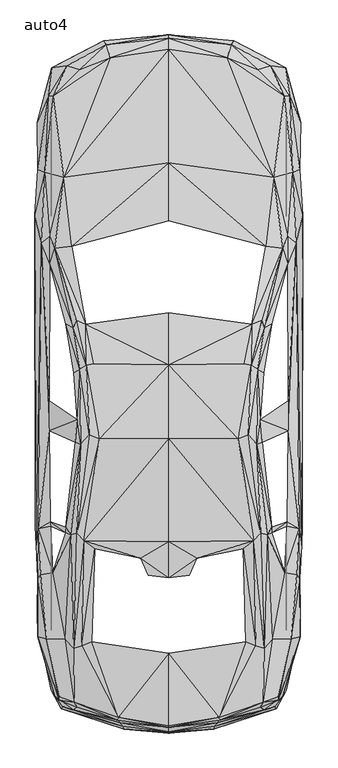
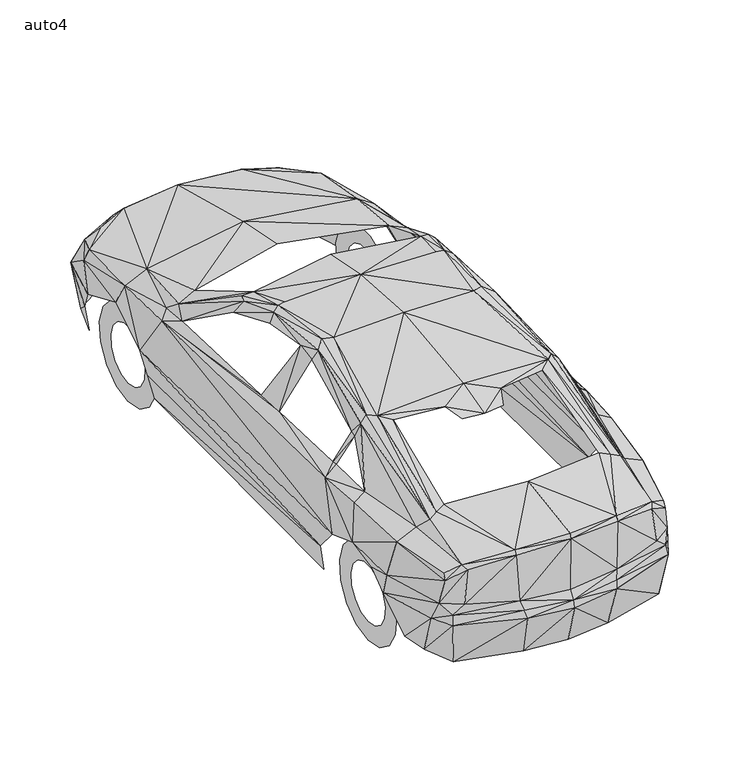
"""IFC4 building model written with IfcOpenShell, lengths in millimetres: proxy geometry, M_RPC maschio : auto4."""

from ifc_helpers import new_model, si_unit, origin, place, context, project, spatial, triangles, source, transform, mapped, element, save


def auto4_f5e02f9d(model_context):
    return source(origin(), model_context, "Body", "Tessellation", [
        triangles([(691.5274847, 2661.7003235, 932.4895935), (0.0, 2758.9345047, 959.4930325), (750.7608604, -757.7185753, 704.4847607), (721.7975121, -786.2464125, 870.6430052), (603.113005, -833.3935347, 933.9051321), (629.4631771, -848.6373716, 710.1467697), (807.163159, -379.3438148, 921.7100189), (319.1414211, -935.7452814, 678.7880007), (0.0, -965.9063765, 1015.5687521), (865.0899284, 18.9568473, 696.8628422), (843.3129147, 40.5160408, 950.2378561), (0.0, -960.8976706, 663.9796022), (859.2101274, 343.2158601, 945.8824533), (817.2894304, 2695.2369392, 837.8686975), (761.1049238, 3194.6916275, 763.7181364), (841.2441456, 2229.2098618, 884.1447247), (882.6203264, 2411.3741787, 584.7114756), (875.2161999, 236.5087106, 624.2366793), (413.4356655, 3530.4923515, 273.5186608), (752.8296295, 3306.9516357, 288.3270048), (428.1351316, 3562.722361, 565.547747), (771.6667065, 3384.2599983, 565.9832946), (672.6904078, 3397.3260612, 685.1033129), (0.0, 3596.2586861, 269.8165794), (411.1490682, 3535.1743332, 674.214806), (386.8677741, 3451.2242249, 764.2625799), (0.0, 3505.7755463, 761.758227), (0.0, 3578.0749123, 656.2488241), (0.0, 3600.2875099, 531.0312856), (585.3647787, 3369.7783241, 754.3540277), (862.041132, -322.3970727, 553.4615298), (865.41658, -366.7131904, 701.9804077), (767.8557472, -405.1495434, 267.747774), (881.3137201, 360.6373984, 470.7090955), (870.4252859, 2341.4700153, 446.7544167), (819.6849237, 3089.073365, 292.4646338), (844.1840097, 3101.5949844, 457.6428872), (838.8486523, 391.5606926, 275.1519369), (829.0490324, 2329.8194183, 281.1406157), (864.8721365, 2710.2630569, 730.1815933), (868.6830957, 3025.5935188, 596.2532856), (796.1657925, 3195.4537903, 703.7225979), (866.5053944, -197.0706382, 656.2488241), (0.0, -1002.7094353, 561.6278918), (0.0, -930.192132, 298.5621722), (708.2957926, -843.5198061, 588.6313308), (673.6703625, -791.7995619, 295.4045161), (739.8723536, -575.6631543, 273.409783), (775.4776657, -720.8066568, 587.5424801), (274.9341813, -904.6042316, 298.8888419), (698.9316839, -830.3447382, 648.3002541), (302.4820274, -958.066666, 623.3655842), (292.7912853, -977.1214622, 575.5651588), (0.0, -992.4742315, 608.7750504), (638.3917019, 2207.7595722, 1039.196743), (548.2350683, 1692.7343227, 1309.1221275), (495.8614846, 1431.9551823, 1380.4417568), (0.0, 1426.4020329, 1400.8031593), (0.0, 939.4691093, 1433.4686073), (459.493937, 936.0936613, 1422.2535942), (0.0, 257.7412627, 1354.7449242), (0.0, 2374.7887665, 1036.0390869), (0.0, 1769.1715176, 1331.7703091), (508.2743534, -400.0319415, 1090.699268), (572.4075027, -425.6198782, 1075.6731503), (764.6980911, 53.9088733, 991.6140369), (682.7078196, -385.7680229, 985.9520279), (627.8298466, -442.4970094, 1053.8962091), (678.3524168, 355.5198329, 1198.8218834), (611.3882629, 1717.6689926, 1288.3251411), (750.8697201, 2194.3666397, 993.0295755), (785.9306614, 2092.014893, 945.2291502), (628.592082, 1669.1062592, 1286.1475124), (560.4301815, 266.343154, 1319.2485443), (603.9841001, 1061.7467474, 1339.6099468), (787.1283354, 990.2094715, 987.0409149), (679.9856747, 1696.545282, 1211.1258562), (647.7558105, 305.3239142, 1274.1701912), (781.2486071, 388.94748, 1001.6314487), (777.3287155, 359.9840953, 1002.7203358), (788.543874, 1189.7953268, 980.6166704), (785.7128695, 2273.852631, 928.1341908), (679.2235119, 319.2611813, 1190.1110779), (581.0094123, 902.339399, 1393.5079651), (523.4093307, 964.4037792, 1415.2848335), (586.0181182, 1397.4386845, 1359.3180462), (625.9788694, 1373.9196259, 1311.1910419), (543.9885615, 1420.8488834, 1379.1351505), (183.3620454, 150.5985929, 1319.1395393), (0.0, 19.93681, 1288.9784443), (605.8351499, 313.2725206, 1312.9332321), (616.83248, 913.1189735, 1338.847784), (489.4372765, 210.9207921, 1299.7581642), (134.9082897, 38.5561131, 1287.2363995), (0.0, -953.9290552, 1047.0364534), (332.9697922, -897.8533356, 1016.7664261), (721.2530685, -763.8160955, 907.3372044), (622.3856295, -801.1635979, 954.2665346), (334.8208056, -919.739209, 992.702924), (0.0, -477.2312628, 1117.8115665), (-691.5274847, 2661.7003235, 932.4895935), (-750.7608604, -757.7185753, 704.4847607), (-721.7975121, -786.2464125, 870.6430052), (-603.113005, -833.3935347, 933.9051321), (-629.5720367, -848.6373716, 710.1467697), (-807.163159, -379.3438148, 921.7100189), (-319.1414211, -935.7452814, 678.7880007), (-865.0899284, 18.9568473, 696.8628422), (-843.3129147, 40.5160408, 950.2378561), (-859.2101274, 343.2158601, 945.8824533), (-817.2894304, 2695.2369392, 837.8686975), (-761.1049238, 3194.6916275, 763.7181364), (-841.2441456, 2229.2098618, 884.1447247), (-882.6203264, 2411.3741787, 584.7114756), (-875.2161999, 236.5087106, 624.2366793), (-413.4356655, 3530.4923515, 273.5186608), (-752.8296295, 3306.9516357, 288.3270048), (-428.1351316, 3562.722361, 565.547747), (-771.6667065, 3384.2599983, 565.9832946), (-672.6904078, 3397.3260612, 685.1033129), (-411.1490682, 3535.1743332, 674.214806), (-386.8677741, 3451.2242249, 764.2625799), (-585.3647787, 3369.7783241, 754.3540277), (-862.041132, -322.3970727, 553.4615298), (-865.41658, -366.7131904, 701.9804077), (-767.8557472, -405.1495434, 267.747774), (-881.3137201, 360.6373984, 470.7090955), (-870.4252859, 2341.4700153, 446.7544167), (-819.6849237, 3089.073365, 292.4646338), (-844.1840097, 3101.5949844, 457.6428872), (-838.8486523, 391.5606926, 275.1519369), (-829.0490324, 2329.8194183, 281.1406157), (-864.8721365, 2710.2630569, 730.1815933), (-868.6830957, 3025.5935188, 596.2532856), (-796.1657925, 3195.4537903, 703.7225979), (-866.5053944, -197.0706382, 656.2488241), (-708.2957926, -843.5198061, 588.6313308), (-673.6703625, -791.7995619, 295.4045161), (-739.8723536, -575.6631543, 273.409783), (-775.4776657, -720.8066568, 587.5424801), (-274.9341813, -904.6042316, 298.8888419), (-698.9316839, -830.3447382, 648.3002541), (-302.4820274, -958.066666, 623.3655842), (-292.7912853, -977.1214622, 575.5651588), (-638.3917019, 2207.7595722, 1039.196743), (-548.2350683, 1692.7343227, 1309.1221275), (-495.8614846, 1431.9551823, 1380.4417568), (-459.493937, 936.0936613, 1422.2535942), (-508.2743534, -400.0319415, 1090.699268), (-572.4075027, -425.6198782, 1075.6731503), (-764.6980911, 53.9088733, 991.6140369), (-682.7078196, -385.7680229, 985.9520279), (-627.8298466, -442.4970094, 1053.8962091), (-678.3524168, 355.5198329, 1198.8218834), (-611.4971226, 1717.6689926, 1288.3251411), (-750.8697201, 2194.3666397, 993.0295755), (-785.9306614, 2092.014893, 945.2291502), (-628.592082, 1669.1062592, 1286.1475124), (-560.4301815, 266.343154, 1319.2485443), (-603.9841001, 1061.7467474, 1339.6099468), (-787.1283354, 990.2094715, 987.0409149), (-680.094607, 1696.545282, 1211.1258562), (-647.7558105, 305.3239142, 1274.1701912), (-781.2486071, 388.94748, 1001.6314487), (-777.3287155, 359.9840953, 1002.7203358), (-788.543874, 1189.7953268, 980.6166704), (-785.7128695, 2273.852631, 928.1341908), (-679.2235119, 319.2611813, 1190.1110779), (-581.0094123, 902.339399, 1393.5079651), (-523.4093307, 964.4037792, 1415.2848335), (-586.0181182, 1397.4386845, 1359.3180462), (-625.9788694, 1373.9196259, 1311.1910419), (-543.9885615, 1420.8488834, 1379.1351505), (-183.3620454, 150.5985929, 1319.1395393), (-605.8351499, 313.2725206, 1312.9332321), (-616.83248, 913.1189735, 1338.847784), (-489.4372765, 210.9207921, 1299.7581642), (-134.9082897, 38.5561131, 1287.2363995), (-332.9697922, -897.8533356, 1016.7664261), (-721.2530685, -763.8160955, 907.3372044), (-622.3856295, -801.1635979, 954.2665346), (-334.8208056, -919.739209, 992.702924), (-775.4668379, 2728.4032288, 0.021777), (-775.4668379, 2728.4032288, 126.7637105), (-775.4668379, 2861.0247849, 28.2229457), (-775.4668379, 2809.4134003, 143.9675114), (-775.4668379, 2970.6718712, 107.8177467), (-775.4668379, 2876.4866318, 192.6390228), (-775.4668379, 3038.3982605, 225.3044708), (-775.4668379, 2917.8628853, 264.3941269), (-775.4668379, 3052.6622154, 360.1038918), (-775.4668379, 2926.5736908, 346.8199279), (-775.4668379, 3010.7415184, 489.0234936), (-775.4668379, 2900.9857178, 425.6525434), (-775.4668379, 2920.0403687, 589.7419825), (-775.4668379, 2845.5632286, 487.1724801), (-775.4668379, 2796.1296181, 644.8376747), (-775.4668379, 2769.7794823, 520.9267425), (-775.4668379, 2660.6768394, 644.8376747), (-775.4668379, 2687.0269753, 520.9267425), (-775.4668379, 2536.7657982, 589.7419825), (-775.4668379, 2611.2432289, 487.1724801), (-775.4668379, 2446.0649391, 489.0234936), (-775.4668379, 2555.8207397, 425.6525434), (-775.4668379, 2404.1442421, 360.1038918), (-775.4668379, 2530.2327667, 346.8199279), (-775.4668379, 2418.4080517, 225.3044708), (-775.4668379, 2538.9435722, 264.3941269), (-775.4668379, 2486.1345863, 107.8177467), (-775.4668379, 2580.3198257, 192.6390228), (-775.4668379, 2595.781382, 28.2229457), (-775.4668379, 2647.3927666, 143.9675114), (775.4668379, 2728.4032288, 0.021777), (775.4668379, 2728.4032288, 126.7637105), (775.4668379, 2595.781382, 28.2229457), (775.4668379, 2647.3927666, 143.9675114), (775.4668379, 2486.1345863, 107.8177467), (775.4668379, 2580.3198257, 192.6390228), (775.4668379, 2418.4080517, 225.3044708), (775.4668379, 2538.9435722, 264.3941269), (775.4668379, 2404.1442421, 360.1038918), (775.4668379, 2530.2327667, 346.8199279), (775.4668379, 2446.0649391, 489.0234936), (775.4668379, 2555.8207397, 425.6525434), (775.4668379, 2536.7657982, 589.7419825), (775.4668379, 2611.2432289, 487.1724801), (775.4668379, 2660.6768394, 644.8376747), (775.4668379, 2687.0269753, 520.9267425), (775.4668379, 2796.1296181, 644.8376747), (775.4668379, 2769.7794823, 520.9267425), (775.4668379, 2920.0403687, 589.7419825), (775.4668379, 2845.5632286, 487.1724801), (775.4668379, 3010.7415184, 489.0234936), (775.4668379, 2900.9857178, 425.6525434), (775.4668379, 3052.6622154, 360.1038918), (775.4668379, 2926.5736908, 346.8199279), (775.4668379, 3038.3982605, 225.3044708), (775.4668379, 2917.8628853, 264.3941269), (775.4668379, 2970.6718712, 107.8177467), (775.4668379, 2876.4866318, 192.6390228), (775.4668379, 2861.0247849, 28.2229457), (775.4668379, 2809.4134003, 143.9675114), (-775.4668379, 0.0, 0.021777), (-775.4668379, 0.0, 126.7637105), (-775.4668379, 132.6217105, 28.2229457), (-775.4668379, 81.0103078, 143.9675114), (-775.4668379, 242.2687333, 107.8177467), (-775.4668379, 148.0833576, 192.6390228), (-775.4668379, 309.9950681, 225.3044708), (-775.4668379, 189.4595839, 264.3941269), (-775.4668379, 324.2589867, 360.1038918), (-775.4668379, 198.1703712, 346.8199279), (-775.4668379, 282.3383441, 489.0234936), (-775.4668379, 172.5824345, 425.6525434), (-775.4668379, 191.6372852, 589.7419825), (-775.4668379, 117.1600634, 487.1724801), (-775.4668379, 67.7263575, 644.8376747), (-775.4668379, 41.3762308, 520.9267425), (-775.4668379, -67.7263575, 644.8376747), (-775.4668379, -41.3762308, 520.9267425), (-775.4668379, -191.6372852, 589.7419825), (-775.4668379, -117.1600634, 487.1724801), (-775.4668379, -282.3383441, 489.0234936), (-775.4668379, -172.5824345, 425.6525434), (-775.4668379, -324.2589867, 360.1038918), (-775.4668379, -198.1703712, 346.8199279), (-775.4668379, -309.9950681, 225.3044708), (-775.4668379, -189.4595839, 264.3941269), (-775.4668379, -242.2687333, 107.8177467), (-775.4668379, -148.0833576, 192.6390228), (-775.4668379, -132.6217105, 28.2229457), (-775.4668379, -81.0103078, 143.9675114), (775.4668379, 0.0, 0.021777), (775.4668379, 0.0, 126.7637105), (775.4668379, -132.6217105, 28.2229457), (775.4668379, -81.0103078, 143.9675114), (775.4668379, -242.2687333, 107.8177467), (775.4668379, -148.0833576, 192.6390228), (775.4668379, -309.9950681, 225.3044708), (775.4668379, -189.4595839, 264.3941269), (775.4668379, -324.2589867, 360.1038918), (775.4668379, -198.1703712, 346.8199279), (775.4668379, -282.3383441, 489.0234936), (775.4668379, -172.5824345, 425.6525434), (775.4668379, -191.6372852, 589.7419825), (775.4668379, -117.1600634, 487.1724801), (775.4668379, -67.7263575, 644.8376747), (775.4668379, -41.3762308, 520.9267425), (775.4668379, 67.7263575, 644.8376747), (775.4668379, 41.3762308, 520.9267425), (775.4668379, 191.6372852, 589.7419825), (775.4668379, 117.1600634, 487.1724801), (775.4668379, 282.3383441, 489.0234936), (775.4668379, 172.5824345, 425.6525434), (775.4668379, 324.2589867, 360.1038918), (775.4668379, 198.1703712, 346.8199279), (775.4668379, 309.9950681, 225.3044708), (775.4668379, 189.4595839, 264.3941269), (775.4668379, 242.2687333, 107.8177467), (775.4668379, 148.0833576, 192.6390228), (775.4668379, 132.6217105, 28.2229457), (775.4668379, 81.0103078, 143.9675114)], [[31, 3, 49], [4, 7, 97], [3, 4, 5], [3, 5, 6], [7, 4, 32], [6, 5, 99], [8, 6, 99], [9, 12, 8], [9, 8, 99], [11, 7, 10], [7, 32, 10], [13, 11, 10], [13, 10, 18], [1, 14, 15], [82, 16, 14], [16, 17, 14], [16, 13, 18], [16, 18, 17], [19, 21, 22], [19, 22, 20], [42, 41, 22], [23, 42, 22], [23, 30, 15], [23, 15, 42], [26, 1, 15], [24, 29, 21], [24, 21, 19], [26, 25, 28], [27, 26, 28], [23, 22, 21], [25, 23, 21], [28, 25, 29], [29, 25, 21], [15, 30, 26], [25, 26, 30], [25, 30, 23], [1, 26, 27], [2, 1, 27], [20, 22, 37], [20, 37, 36], [39, 35, 34], [39, 34, 38], [42, 14, 40], [22, 41, 37], [42, 15, 14], [42, 40, 41], [17, 40, 14], [32, 31, 43], [17, 18, 34], [17, 34, 35], [32, 43, 10], [44, 45, 50], [53, 44, 50], [47, 46, 53], [50, 47, 53], [47, 48, 46], [46, 48, 49], [48, 33, 49], [32, 3, 31], [31, 49, 33], [49, 3, 51], [49, 51, 46], [51, 6, 8], [52, 51, 8], [8, 12, 54], [8, 54, 52], [53, 52, 54], [53, 54, 44], [46, 51, 52], [46, 52, 53], [4, 3, 32], [6, 51, 3], [56, 63, 58], [56, 58, 57], [60, 57, 58], [59, 60, 58], [90, 89, 61], [55, 1, 2], [62, 55, 2], [67, 7, 11], [67, 11, 66], [56, 70, 71], [56, 71, 55], [72, 73, 77], [71, 70, 73], [71, 73, 72], [68, 91, 74], [68, 74, 65], [93, 64, 65], [93, 65, 74], [78, 91, 68], [67, 78, 68], [83, 69, 78], [75, 92, 76], [81, 75, 76], [77, 73, 86], [77, 86, 87], [72, 82, 71], [72, 16, 82], [13, 16, 76], [13, 76, 79], [1, 71, 82], [1, 82, 14], [1, 55, 71], [81, 16, 72], [16, 81, 76], [66, 11, 13], [66, 13, 80], [79, 80, 13], [79, 69, 83], [79, 83, 80], [66, 83, 78], [66, 78, 67], [91, 78, 84], [85, 91, 84], [86, 88, 85], [86, 85, 84], [60, 85, 88], [57, 60, 88], [86, 84, 75], [86, 75, 87], [73, 70, 88], [73, 88, 86], [56, 57, 88], [56, 88, 70], [89, 90, 94], [92, 75, 84], [93, 74, 89], [74, 61, 89], [84, 78, 69], [92, 84, 69], [74, 60, 59], [61, 74, 59], [91, 85, 60], [74, 91, 60], [68, 98, 67], [98, 68, 65], [98, 65, 96], [99, 5, 98], [96, 99, 98], [9, 99, 96], [9, 96, 95], [98, 5, 4], [98, 4, 97], [67, 98, 7], [98, 97, 7], [96, 64, 100], [96, 100, 95], [96, 65, 64], [124, 140, 102], [103, 180, 106], [102, 104, 103], [102, 105, 104], [106, 125, 103], [105, 182, 104], [107, 182, 105], [9, 107, 12], [9, 182, 107], [109, 108, 106], [106, 108, 125], [110, 108, 109], [110, 115, 108], [101, 112, 111], [167, 111, 113], [113, 111, 114], [113, 115, 110], [113, 114, 115], [116, 119, 118], [116, 117, 119], [135, 119, 134], [120, 119, 135], [120, 112, 123], [120, 135, 112], [122, 112, 101], [24, 118, 29], [24, 116, 118], [122, 28, 121], [27, 28, 122], [120, 118, 119], [121, 118, 120], [28, 29, 121], [29, 118, 121], [112, 122, 123], [121, 123, 122], [121, 120, 123], [101, 27, 122], [2, 27, 101], [117, 130, 119], [117, 129, 130], [132, 127, 128], [132, 131, 127], [135, 133, 111], [119, 130, 134], [135, 111, 112], [135, 134, 133], [114, 111, 133], [125, 136, 124], [114, 127, 115], [114, 128, 127], [125, 108, 136], [44, 141, 45], [144, 141, 44], [138, 144, 137], [141, 144, 138], [138, 137, 139], [137, 140, 139], [139, 140, 126], [125, 124, 102], [124, 126, 140], [140, 142, 102], [140, 137, 142], [142, 107, 105], [143, 107, 142], [107, 54, 12], [107, 143, 54], [144, 54, 143], [144, 44, 54], [137, 143, 142], [137, 144, 143], [103, 125, 102], [105, 102, 142], [146, 58, 63], [146, 147, 58], [148, 58, 147], [59, 58, 148], [90, 61, 174], [145, 2, 101], [62, 2, 145], [152, 109, 106], [152, 151, 109], [146, 156, 155], [146, 145, 156], [157, 162, 158], [156, 158, 155], [156, 157, 158], [153, 159, 175], [153, 150, 159], [177, 150, 149], [177, 159, 150], [163, 153, 175], [152, 153, 163], [168, 163, 154], [160, 161, 176], [166, 161, 160], [162, 171, 158], [162, 172, 171], [157, 156, 167], [157, 167, 113], [110, 161, 113], [110, 164, 161], [101, 167, 156], [101, 111, 167], [101, 156, 145], [166, 157, 113], [113, 161, 166], [151, 110, 109], [151, 165, 110], [164, 110, 165], [164, 168, 154], [164, 165, 168], [151, 163, 168], [151, 152, 163], [175, 169, 163], [170, 169, 175], [171, 170, 173], [171, 169, 170], [148, 173, 170], [147, 173, 148], [171, 160, 169], [171, 172, 160], [158, 173, 155], [158, 171, 173], [146, 173, 147], [146, 155, 173], [174, 178, 90], [176, 169, 160], [177, 174, 159], [159, 174, 61], [169, 154, 163], [176, 154, 169], [159, 59, 148], [61, 59, 159], [175, 148, 170], [159, 148, 175], [153, 152, 181], [181, 150, 153], [181, 179, 150], [182, 181, 104], [179, 181, 182], [9, 179, 182], [9, 95, 179], [181, 103, 104], [181, 180, 103], [152, 106, 181], [181, 106, 180], [179, 100, 149], [179, 95, 100], [179, 149, 150], [183, 186, 185], [183, 184, 186], [185, 188, 187], [185, 186, 188], [187, 190, 189], [187, 188, 190], [189, 192, 191], [189, 190, 192], [191, 194, 193], [191, 192, 194], [193, 196, 195], [193, 194, 196], [195, 198, 197], [195, 196, 198], [197, 200, 199], [197, 198, 200], [199, 202, 201], [199, 200, 202], [201, 204, 203], [201, 202, 204], [203, 206, 205], [203, 204, 206], [205, 208, 207], [205, 206, 208], [207, 210, 209], [207, 208, 210], [209, 212, 211], [209, 210, 212], [211, 184, 183], [211, 212, 184], [213, 216, 215], [213, 214, 216], [215, 218, 217], [215, 216, 218], [217, 220, 219], [217, 218, 220], [219, 222, 221], [219, 220, 222], [221, 224, 223], [221, 222, 224], [223, 226, 225], [223, 224, 226], [225, 228, 227], [225, 226, 228], [227, 230, 229], [227, 228, 230], [229, 232, 231], [229, 230, 232], [231, 234, 233], [231, 232, 234], [233, 236, 235], [233, 234, 236], [235, 238, 237], [235, 236, 238], [237, 240, 239], [237, 238, 240], [239, 242, 241], [239, 240, 242], [241, 214, 213], [241, 242, 214], [243, 246, 245], [243, 244, 246], [245, 248, 247], [245, 246, 248], [247, 250, 249], [247, 248, 250], [249, 252, 251], [249, 250, 252], [251, 254, 253], [251, 252, 254], [253, 256, 255], [253, 254, 256], [255, 258, 257], [255, 256, 258], [257, 260, 259], [257, 258, 260], [259, 262, 261], [259, 260, 262], [261, 264, 263], [261, 262, 264], [263, 266, 265], [263, 264, 266], [265, 268, 267], [265, 266, 268], [267, 270, 269], [267, 268, 270], [269, 272, 271], [269, 270, 272], [271, 244, 243], [271, 272, 244], [273, 276, 275], [273, 274, 276], [275, 278, 277], [275, 276, 278], [277, 280, 279], [277, 278, 280], [279, 282, 281], [279, 280, 282], [281, 284, 283], [281, 282, 284], [283, 286, 285], [283, 284, 286], [285, 288, 287], [285, 286, 288], [287, 290, 289], [287, 288, 290], [289, 292, 291], [289, 290, 292], [291, 294, 293], [291, 292, 294], [293, 296, 295], [293, 294, 296], [295, 298, 297], [295, 296, 298], [297, 300, 299], [297, 298, 300], [299, 302, 301], [299, 300, 302], [301, 274, 273], [301, 302, 274]], closed=False),
    ])


if __name__ == "__main__":
    model = new_model("IFC4")
    model_context = context("Model", 3, world=origin())
    ifc_project = project(units=[si_unit("LENGTHUNIT", "METRE", prefix="MILLI")], contexts=[model_context])
    site = spatial("IfcSite", under=ifc_project)
    building = spatial("IfcBuilding", under=site)
    placement = place(None, origin())
    auto4_shape = auto4_f5e02f9d(model_context)
    element("IfcBuildingElementProxy", 1, Name="M_RPC maschio : auto4", ObjectType="M_RPC maschio : auto4", at=placement, inside=building, context=model_context, shape_type="MappedRepresentation", body=[
        mapped(auto4_shape, transform((0.0, 0.0, 0.0), x_axis=(1.0, 0.0, 0.0), y_axis=(0.0, 1.0, 0.0), z_axis=(0.0, 0.0, 1.0))),
    ])
    save(model, "model.ifc")
